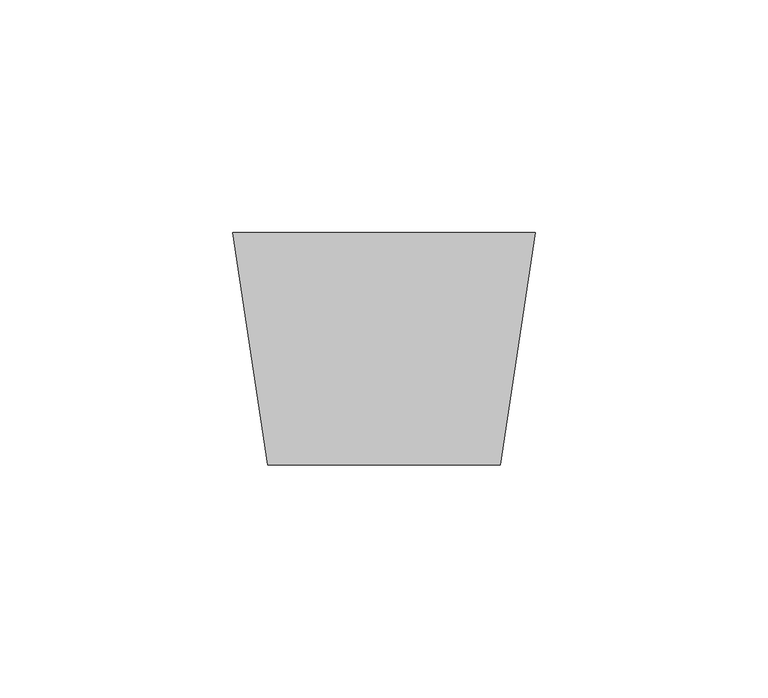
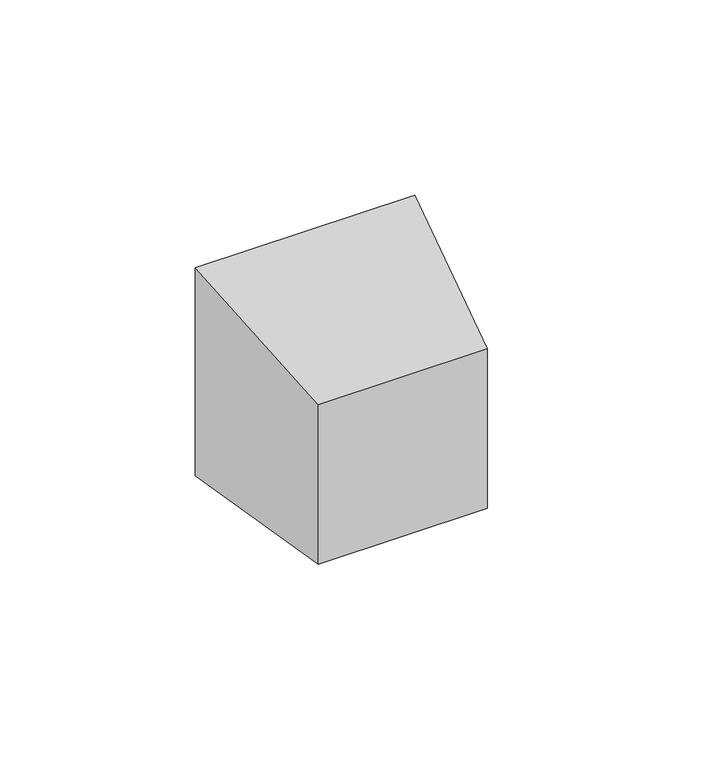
"""IFC4 building model written with IfcOpenShell, lengths in millimetres: duct fitting geometry, Переходник на напольный кабель-канал : Переходник на напольный кабель-канал, крышка 65мм."""

from ifc_helpers import new_model, si_unit, origin, place, context, project, spatial, faceted_brep, source, transform, mapped, element, save


def duct_fitting_60684a8f(model_context):
    return source(origin(), model_context, "Body", "Brep", [
        faceted_brep([(25.0, -25.0, 50.0), (-25.0, -25.0, 50.0), (-25.0, -25.0, 0.0), (25.0, -25.0, 0.0), (32.5, 25.0, 65.0), (32.5, 25.0, 0.0), (-32.5, 25.0, 0.0), (-32.5, 25.0, 65.0)], [[[0, 1, 2, 3]], [[4, 5, 6, 7]], [[4, 7, 1, 0]], [[7, 6, 2, 1]], [[6, 5, 3, 2]], [[5, 4, 0, 3]]]),
    ])


if __name__ == "__main__":
    model = new_model("IFC4")
    model_context = context("Model", 3, world=origin())
    ifc_project = project(units=[si_unit("LENGTHUNIT", "METRE", prefix="MILLI")], contexts=[model_context])
    site = spatial("IfcSite", under=ifc_project)
    building = spatial("IfcBuilding", under=site)
    placement = place(None, origin())
    duct_fitting_shape = duct_fitting_60684a8f(model_context)
    element("IfcDuctFitting", 1, ObjectType="Переходник на напольный кабель-канал : Переходник на напольный кабель-канал, крышка 65мм", at=placement, inside=building, context=model_context, shape_type="MappedRepresentation", body=[
        mapped(duct_fitting_shape, transform((0.0, 0.0, 0.0), x_axis=(1.0, 0.0, 0.0), y_axis=(0.0, 1.0, 0.0), z_axis=(0.0, 0.0, 1.0))),
    ])
    save(model, "model.ifc")
